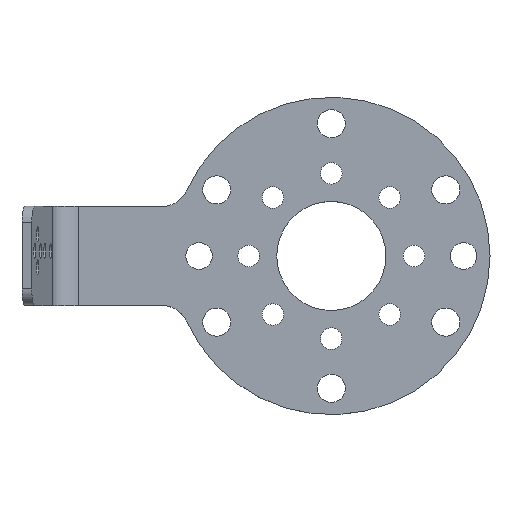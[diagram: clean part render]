
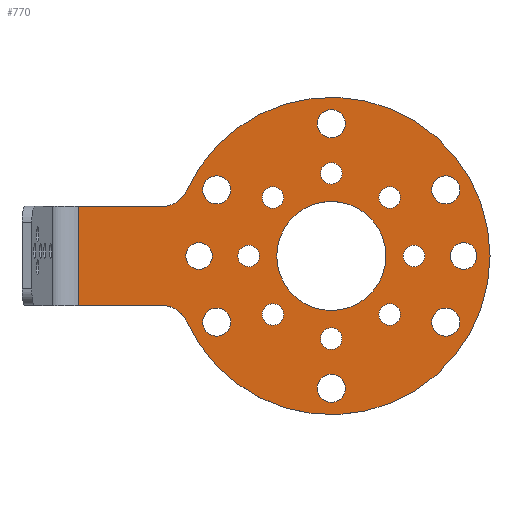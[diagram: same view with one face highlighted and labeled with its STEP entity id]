
A CAD part, top view. The second image highlights one B-rep face of the part: STEP entity #770.
In plain terms, the highlighted planar face has unit normal (0, 0, 1).
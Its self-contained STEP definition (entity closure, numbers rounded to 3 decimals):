
#24=FACE_BOUND('',#129,.T.);
#25=FACE_BOUND('',#130,.T.);
#26=FACE_BOUND('',#131,.T.);
#27=FACE_BOUND('',#132,.T.);
#28=FACE_BOUND('',#133,.T.);
#29=FACE_BOUND('',#134,.T.);
#30=FACE_BOUND('',#135,.T.);
#31=FACE_BOUND('',#136,.T.);
#32=FACE_BOUND('',#137,.T.);
#33=FACE_BOUND('',#138,.T.);
#34=FACE_BOUND('',#139,.T.);
#35=FACE_BOUND('',#140,.T.);
#36=FACE_BOUND('',#141,.T.);
#37=FACE_BOUND('',#142,.T.);
#38=FACE_BOUND('',#143,.T.);
#39=FACE_BOUND('',#144,.T.);
#40=FACE_BOUND('',#145,.T.);
#66=PLANE('',#863);
#85=FACE_OUTER_BOUND('',#128,.T.);
#128=EDGE_LOOP('',(#584,#585,#586,#587,#588,#589));
#129=EDGE_LOOP('',(#590));
#130=EDGE_LOOP('',(#591));
#131=EDGE_LOOP('',(#592));
#132=EDGE_LOOP('',(#593));
#133=EDGE_LOOP('',(#594));
#134=EDGE_LOOP('',(#595));
#135=EDGE_LOOP('',(#596));
#136=EDGE_LOOP('',(#597));
#137=EDGE_LOOP('',(#598));
#138=EDGE_LOOP('',(#599));
#139=EDGE_LOOP('',(#600));
#140=EDGE_LOOP('',(#601));
#141=EDGE_LOOP('',(#602));
#142=EDGE_LOOP('',(#603));
#143=EDGE_LOOP('',(#604));
#144=EDGE_LOOP('',(#605));
#145=EDGE_LOOP('',(#606));
#191=CIRCLE('',#817,48.);
#193=CIRCLE('',#820,3.25);
#195=CIRCLE('',#823,3.25);
#197=CIRCLE('',#826,3.265);
#200=CIRCLE('',#830,8.);
#201=CIRCLE('',#832,16.5);
#203=CIRCLE('',#835,3.25);
#205=CIRCLE('',#838,3.25);
#207=CIRCLE('',#841,3.25);
#209=CIRCLE('',#844,3.25);
#211=CIRCLE('',#847,3.25);
#224=CIRCLE('',#864,8.);
#225=CIRCLE('',#865,4.);
#226=CIRCLE('',#866,4.25);
#227=CIRCLE('',#867,4.25);
#228=CIRCLE('',#868,4.25);
#229=CIRCLE('',#869,4.25);
#230=CIRCLE('',#870,4.25);
#231=CIRCLE('',#871,4.25);
#232=CIRCLE('',#872,4.);
#267=LINE('',#1240,#312);
#272=LINE('',#1266,#317);
#273=LINE('',#1268,#318);
#312=VECTOR('',#1007,1.);
#317=VECTOR('',#1032,1.);
#318=VECTOR('',#1033,1.);
#341=VERTEX_POINT('',#1156);
#343=VERTEX_POINT('',#1159);
#345=VERTEX_POINT('',#1165);
#347=VERTEX_POINT('',#1171);
#349=VERTEX_POINT('',#1177);
#352=VERTEX_POINT('',#1185);
#353=VERTEX_POINT('',#1189);
#355=VERTEX_POINT('',#1195);
#357=VERTEX_POINT('',#1201);
#359=VERTEX_POINT('',#1207);
#361=VERTEX_POINT('',#1213);
#363=VERTEX_POINT('',#1219);
#371=VERTEX_POINT('',#1238);
#382=VERTEX_POINT('',#1265);
#383=VERTEX_POINT('',#1267);
#384=VERTEX_POINT('',#1270);
#385=VERTEX_POINT('',#1272);
#386=VERTEX_POINT('',#1274);
#387=VERTEX_POINT('',#1276);
#388=VERTEX_POINT('',#1278);
#389=VERTEX_POINT('',#1280);
#390=VERTEX_POINT('',#1282);
#391=VERTEX_POINT('',#1284);
#412=EDGE_CURVE('',#343,#341,#191,.T.);
#415=EDGE_CURVE('',#345,#345,#193,.T.);
#418=EDGE_CURVE('',#347,#347,#195,.T.);
#421=EDGE_CURVE('',#349,#349,#197,.T.);
#426=EDGE_CURVE('',#341,#352,#200,.T.);
#427=EDGE_CURVE('',#353,#353,#201,.T.);
#430=EDGE_CURVE('',#355,#355,#203,.T.);
#433=EDGE_CURVE('',#357,#357,#205,.T.);
#436=EDGE_CURVE('',#359,#359,#207,.T.);
#439=EDGE_CURVE('',#361,#361,#209,.T.);
#442=EDGE_CURVE('',#363,#363,#211,.T.);
#452=EDGE_CURVE('',#371,#352,#267,.T.);
#465=EDGE_CURVE('',#382,#371,#272,.T.);
#466=EDGE_CURVE('',#382,#383,#273,.T.);
#467=EDGE_CURVE('',#383,#343,#224,.T.);
#468=EDGE_CURVE('',#384,#384,#225,.T.);
#469=EDGE_CURVE('',#385,#385,#226,.T.);
#470=EDGE_CURVE('',#386,#386,#227,.T.);
#471=EDGE_CURVE('',#387,#387,#228,.T.);
#472=EDGE_CURVE('',#388,#388,#229,.T.);
#473=EDGE_CURVE('',#389,#389,#230,.T.);
#474=EDGE_CURVE('',#390,#390,#231,.T.);
#475=EDGE_CURVE('',#391,#391,#232,.T.);
#584=ORIENTED_EDGE('',*,*,#465,.F.);
#585=ORIENTED_EDGE('',*,*,#466,.T.);
#586=ORIENTED_EDGE('',*,*,#467,.T.);
#587=ORIENTED_EDGE('',*,*,#412,.T.);
#588=ORIENTED_EDGE('',*,*,#426,.T.);
#589=ORIENTED_EDGE('',*,*,#452,.F.);
#590=ORIENTED_EDGE('',*,*,#442,.F.);
#591=ORIENTED_EDGE('',*,*,#439,.F.);
#592=ORIENTED_EDGE('',*,*,#430,.F.);
#593=ORIENTED_EDGE('',*,*,#415,.F.);
#594=ORIENTED_EDGE('',*,*,#427,.F.);
#595=ORIENTED_EDGE('',*,*,#436,.F.);
#596=ORIENTED_EDGE('',*,*,#468,.F.);
#597=ORIENTED_EDGE('',*,*,#469,.F.);
#598=ORIENTED_EDGE('',*,*,#470,.F.);
#599=ORIENTED_EDGE('',*,*,#471,.F.);
#600=ORIENTED_EDGE('',*,*,#472,.F.);
#601=ORIENTED_EDGE('',*,*,#473,.F.);
#602=ORIENTED_EDGE('',*,*,#474,.F.);
#603=ORIENTED_EDGE('',*,*,#418,.F.);
#604=ORIENTED_EDGE('',*,*,#421,.F.);
#605=ORIENTED_EDGE('',*,*,#475,.F.);
#606=ORIENTED_EDGE('',*,*,#433,.F.);
#770=ADVANCED_FACE('',(#85,#24,#25,#26,#27,#28,#29,#30,#31,#32,#33,#34,
#35,#36,#37,#38,#39,#40),#66,.T.);
#817=AXIS2_PLACEMENT_3D('',#1160,#918,#919);
#820=AXIS2_PLACEMENT_3D('',#1166,#925,#926);
#823=AXIS2_PLACEMENT_3D('',#1172,#932,#933);
#826=AXIS2_PLACEMENT_3D('',#1178,#939,#940);
#830=AXIS2_PLACEMENT_3D('',#1187,#949,#950);
#832=AXIS2_PLACEMENT_3D('',#1190,#953,#954);
#835=AXIS2_PLACEMENT_3D('',#1196,#960,#961);
#838=AXIS2_PLACEMENT_3D('',#1202,#967,#968);
#841=AXIS2_PLACEMENT_3D('',#1208,#974,#975);
#844=AXIS2_PLACEMENT_3D('',#1214,#981,#982);
#847=AXIS2_PLACEMENT_3D('',#1220,#988,#989);
#863=AXIS2_PLACEMENT_3D('',#1264,#1030,#1031);
#864=AXIS2_PLACEMENT_3D('',#1269,#1034,#1035);
#865=AXIS2_PLACEMENT_3D('',#1271,#1036,#1037);
#866=AXIS2_PLACEMENT_3D('',#1273,#1038,#1039);
#867=AXIS2_PLACEMENT_3D('',#1275,#1040,#1041);
#868=AXIS2_PLACEMENT_3D('',#1277,#1042,#1043);
#869=AXIS2_PLACEMENT_3D('',#1279,#1044,#1045);
#870=AXIS2_PLACEMENT_3D('',#1281,#1046,#1047);
#871=AXIS2_PLACEMENT_3D('',#1283,#1048,#1049);
#872=AXIS2_PLACEMENT_3D('',#1285,#1050,#1051);
#918=DIRECTION('center_axis',(0.,0.,1.));
#919=DIRECTION('ref_axis',(1.,0.,0.));
#925=DIRECTION('center_axis',(0.,0.,1.));
#926=DIRECTION('ref_axis',(-0.707,0.707,0.));
#932=DIRECTION('center_axis',(0.,0.,1.));
#933=DIRECTION('ref_axis',(-0.707,0.707,0.));
#939=DIRECTION('center_axis',(0.,0.,1.));
#940=DIRECTION('ref_axis',(-0.707,0.707,0.));
#949=DIRECTION('center_axis',(0.,0.,-1.));
#950=DIRECTION('ref_axis',(0.,-1.,0.));
#953=DIRECTION('center_axis',(0.,0.,1.));
#954=DIRECTION('ref_axis',(1.,0.,0.));
#960=DIRECTION('center_axis',(0.,0.,1.));
#961=DIRECTION('ref_axis',(1.,0.,0.));
#967=DIRECTION('center_axis',(0.,0.,1.));
#968=DIRECTION('ref_axis',(-0.707,0.707,0.));
#974=DIRECTION('center_axis',(0.,0.,1.));
#975=DIRECTION('ref_axis',(1.,0.,0.));
#981=DIRECTION('center_axis',(0.,0.,1.));
#982=DIRECTION('ref_axis',(1.,0.,0.));
#988=DIRECTION('center_axis',(0.,0.,1.));
#989=DIRECTION('ref_axis',(-0.707,0.707,0.));
#1007=DIRECTION('',(1.,0.,0.));
#1030=DIRECTION('center_axis',(0.,0.,1.));
#1031=DIRECTION('ref_axis',(1.,0.,0.));
#1032=DIRECTION('',(0.,1.,0.));
#1033=DIRECTION('',(1.,0.,0.));
#1034=DIRECTION('center_axis',(0.,0.,-1.));
#1035=DIRECTION('ref_axis',(0.,-1.,0.));
#1036=DIRECTION('center_axis',(0.,0.,1.));
#1037=DIRECTION('ref_axis',(0.,1.,0.));
#1038=DIRECTION('center_axis',(0.,0.,1.));
#1039=DIRECTION('ref_axis',(0.,1.,0.));
#1040=DIRECTION('center_axis',(0.,0.,1.));
#1041=DIRECTION('ref_axis',(0.,1.,0.));
#1042=DIRECTION('center_axis',(0.,0.,1.));
#1043=DIRECTION('ref_axis',(0.,1.,0.));
#1044=DIRECTION('center_axis',(0.,0.,1.));
#1045=DIRECTION('ref_axis',(0.,1.,0.));
#1046=DIRECTION('center_axis',(0.,0.,1.));
#1047=DIRECTION('ref_axis',(0.,1.,0.));
#1048=DIRECTION('center_axis',(0.,0.,1.));
#1049=DIRECTION('ref_axis',(0.,1.,0.));
#1050=DIRECTION('center_axis',(0.,0.,1.));
#1051=DIRECTION('ref_axis',(0.,-1.,0.));
#1156=CARTESIAN_POINT('',(-43.765,19.714,3.));
#1159=CARTESIAN_POINT('',(-43.765,-19.715,3.));
#1160=CARTESIAN_POINT('Origin',(0.,0.,
3.));
#1165=CARTESIAN_POINT('',(27.298,-2.299,3.));
#1166=CARTESIAN_POINT('Origin',(25.,0.,
3.));
#1171=CARTESIAN_POINT('',(2.298,-27.299,3.));
#1172=CARTESIAN_POINT('Origin',(0.,-25.,
3.));
#1177=CARTESIAN_POINT('',(-15.369,-19.987,3.));
#1178=CARTESIAN_POINT('Origin',(-17.678,-17.678,3.));
#1185=CARTESIAN_POINT('',(-51.059,15.,3.));
#1187=CARTESIAN_POINT('Origin',(-51.059,23.,3.));
#1189=CARTESIAN_POINT('',(-16.5,0.,3.));
#1190=CARTESIAN_POINT('Origin',(0.,0.,
3.));
#1195=CARTESIAN_POINT('',(-20.928,17.677,3.));
#1196=CARTESIAN_POINT('Origin',(-17.678,17.677,3.));
#1201=CARTESIAN_POINT('',(-3.25,25.,3.));
#1202=CARTESIAN_POINT('Origin',(0.,25.,
3.));
#1207=CARTESIAN_POINT('',(14.427,-17.678,3.));
#1208=CARTESIAN_POINT('Origin',(17.677,-17.678,3.));
#1213=CARTESIAN_POINT('',(14.427,17.677,3.));
#1214=CARTESIAN_POINT('Origin',(17.677,17.677,3.));
#1219=CARTESIAN_POINT('',(-22.702,-2.299,3.));
#1220=CARTESIAN_POINT('Origin',(-25.,0.,
3.));
#1238=CARTESIAN_POINT('',(-76.466,15.,3.));
#1240=CARTESIAN_POINT('',(911.4,15.,3.));
#1264=CARTESIAN_POINT('Origin',(3.625,0.,
3.));
#1265=CARTESIAN_POINT('',(-76.466,-15.,3.));
#1266=CARTESIAN_POINT('',(-76.466,0.,3.));
#1267=CARTESIAN_POINT('',(-51.059,-15.,3.));
#1268=CARTESIAN_POINT('',(911.4,-15.,3.));
#1269=CARTESIAN_POINT('Origin',(-51.059,-23.,3.));
#1270=CARTESIAN_POINT('',(-40.,-4.,3.));
#1271=CARTESIAN_POINT('Origin',(-40.,0.,
3.));
#1272=CARTESIAN_POINT('',(34.641,15.75,3.));
#1273=CARTESIAN_POINT('Origin',(34.641,20.,3.));
#1274=CARTESIAN_POINT('',(0.,35.75,3.));
#1275=CARTESIAN_POINT('Origin',(0.,40.,
3.));
#1276=CARTESIAN_POINT('',(-34.641,-24.25,3.));
#1277=CARTESIAN_POINT('Origin',(-34.641,-20.,3.));
#1278=CARTESIAN_POINT('',(-34.641,15.75,3.));
#1279=CARTESIAN_POINT('Origin',(-34.641,20.,3.));
#1280=CARTESIAN_POINT('',(0.,-44.25,3.));
#1281=CARTESIAN_POINT('Origin',(0.,-40.,
3.));
#1282=CARTESIAN_POINT('',(34.641,-24.25,3.));
#1283=CARTESIAN_POINT('Origin',(34.641,-20.,3.));
#1284=CARTESIAN_POINT('',(40.,4.,3.));
#1285=CARTESIAN_POINT('Origin',(40.,0.,
3.));
